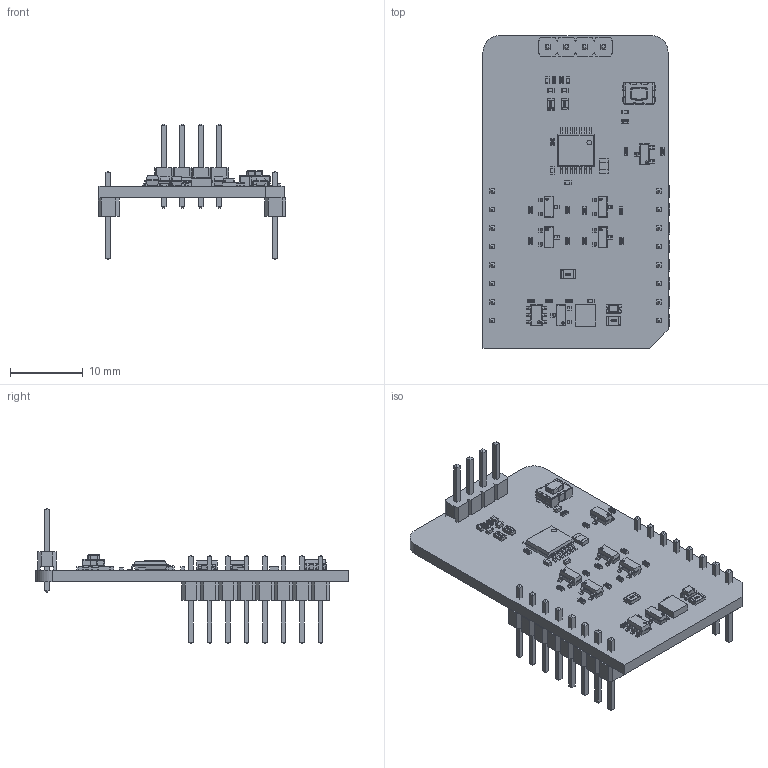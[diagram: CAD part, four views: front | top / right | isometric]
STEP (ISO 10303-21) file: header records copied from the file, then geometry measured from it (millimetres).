
FILE_DESCRIPTION(('Open CASCADE Model'),'2;1');
FILE_NAME('Open CASCADE Shape Model','2026-08-03T10:22:05',('Author'),( 'Open CASCADE'),'Open CASCADE STEP processor 7.5','Open CASCADE 7.5' ,'Unknown');
FILE_SCHEMA(('AUTOMOTIVE_DESIGN { 1 0 10303 214 1 1 1 1 }'));
Length unit declared in the file: millimetre
Products named in the file (74): PCB; Board; Open CASCADE STEP translator 7.5 1.1.1; R20; User Library-R_0402; R19; Q6; SOT23-3; T1; User Library-Switch-CK-KMR2; User Library-Switch-CK-KMR2_Button; User Library-Switch-CK-KMR2_Boitier; User Library-Switch-CK-KMR2_Tole; User Library-Switch-CK-KMR2_Pads; R18; R17; R16; R15; User Library-R_0603; R14; R13; C9; User Library-SMD CAPACITOR0402; C8; User Library-SMD CAPACITOR0805; C7; C6; C5; C4; C3; C2; U3; User Library-TSSOP-14; User Library-TSSOP-14__X2_041A043E0440043F04430441_X0_; User Library-TSSOP-14__X2_041C04350442043A0430_X0_; User Library-TSSOP-14__X2_041D043E0436043A0430_X0_; R12; R11; R10; R9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
Assembly tree (114 placements, depth 7):
  PCB
    Board
      Open CASCADE STEP translator 7.5 1.1.1
    R20
      User Library-R_0402
    R19
      User Library-R_0402
    Q6
      SOT23-3
    T1
      User Library-Switch-CK-KMR2
        User Library-Switch-CK-KMR2_Button
        User Library-Switch-CK-KMR2_Boitier
        User Library-Switch-CK-KMR2_Tole
        User Library-Switch-CK-KMR2_Pads
    R18
      User Library-R_0402
    R17
      User Library-R_0402
    R16
      User Library-R_0402
    R15
      User Library-R_0603
    R14
      User Library-R_0402
    R13
      User Library-R_0603
    C9
      User Library-SMD CAPACITOR0402
    C8
      User Library-SMD CAPACITOR0805
    C7
      User Library-SMD CAPACITOR0402
    C6
      User Library-SMD CAPACITOR0402
    C5
      User Library-SMD CAPACITOR0402
    C4
      User Library-SMD CAPACITOR0402
    C3
      User Library-SMD CAPACITOR0402
    C2
      User Library-SMD CAPACITOR0402
    U3
      User Library-TSSOP-14
        User Library-TSSOP-14__X2_041A043E0440043F04430441_X0_
        User Library-TSSOP-14__X2_041C04350442043A0430_X0_
        User Library-TSSOP-14__X2_041D043E0436043A0430_X0_  x7
    R12
      User Library-R_0402
    R11
      User Library-R_0402
    R10
      User Library-R_0402
    R9
      User Library-R_0402
    R8
      User Library-R_0402
    R7
      User Library-R_0402
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Bounding box: 25.78 x 42.93 x 18.65 mm (x, y, z)
Volume: 2355.8 mm3; surface area: 4460.1 mm2
Topology: 139 solids, 139 shells, 3745 faces, 9366 edges, 5996 vertices
Faces by surface type: plane 2673, bspline 622, cylinder 354, sphere 90, cone 6
Entity records: 42939 total; most frequent: CARTESIAN_POINT 12507, ORIENTED_EDGE 4944, DIRECTION 4476, EDGE_CURVE 2472, LINE 1946, VECTOR 1946, VERTEX_POINT 1588, AXIS2_PLACEMENT_3D 1265
